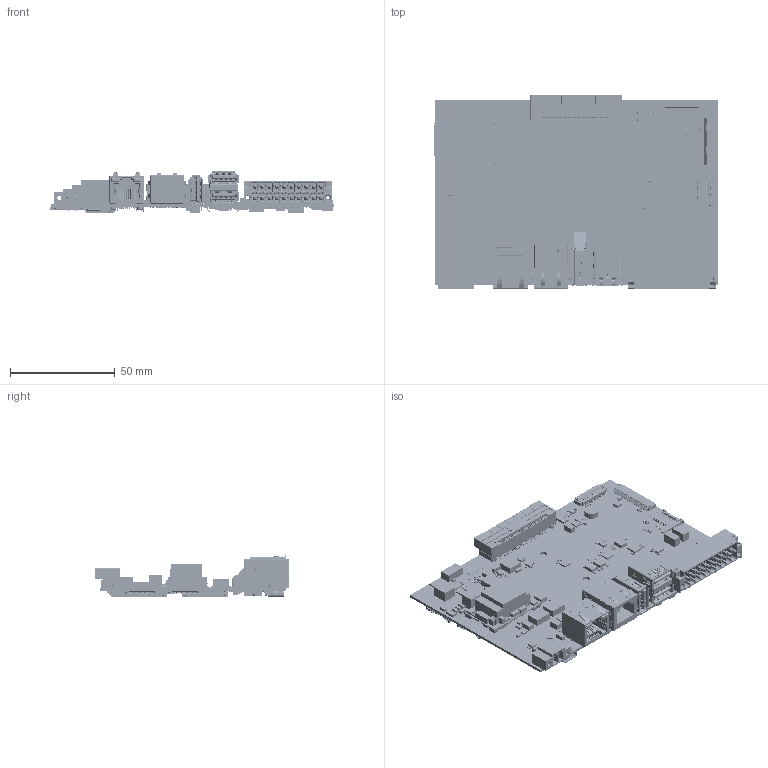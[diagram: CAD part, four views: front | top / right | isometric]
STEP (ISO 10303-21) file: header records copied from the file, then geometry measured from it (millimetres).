
FILE_DESCRIPTION(('STEP AP214'),'1');
FILE_NAME('Humming Board I2 MAIN_BoardAndModels.step','2023-12-10T09:46:16',(' '),(' '),'Spatial InterOp 3D','XD3DPlugin XRACreate',' ');
FILE_SCHEMA(('automotive_design'));
Length unit declared in the file: millimetre
Products named in the file (769): Submodel-G:\My Drive\HummingBoard Industrial\Rev 1.0\Layout\Humming Board I2-PCB\Humming Board I2-PCB\PCB\Layout\3D\Input_S\0402-h-20-Kemet.xtd; 0402-h-20-Kemet; Submodel-CA20090_part_simplified_0402_rnd; DesignRootModel; Submodel-CA20013_part_simplified_0402_rnd; Submodel-CA20001_part_simplified_0402_rnd; Submodel-CA20005_part_simplified_0402_rnd; Submodel-CA20013_part_simplified_0402; Submodel-CA20081_part_simplified_0402_rnd; Submodel-CA20016_part_simplified_0402_rnd; Submodel-G:\My Drive\HummingBoard Industrial\Rev 1.0\Layout\Humming Board I2-PCB\Humming Board I2-PCB\PCB\Layout\3D\Input_S\0603-capcitor.xtd; 0603-capcitor; Submodel-CA30001_part_simplified_0603; Submodel-CA20800_part_simplified_0402_rnd; uid__3113622; Submodel-noModelForPart_CO00507_3499643679; placementOutline; Submodel-CO00507_3499643679_part_HEADER_2x3-100mil_1L2H; Submodel-noModelForPart_IC01183_4288907987_cmpbody; gray; Submodel-noModelForPart_IC01183_4288907987; Submodel-IC01183_4288907987_part_BGA-WLCSP-12pin-0.4pitch; Submodel-G:\My Drive\HummingBoard Industrial\Rev 1.0\Layout\Humming Board I2-PCB\Humming Board I2-PCB\PCB\Layout\3D\ImportedPartModels\CO00511 DF40C-70DS.stp; CO00511 DF40C-70DS.xtd; Submodel-CO00511_part_DF40HC-70DS-0.4V; Submodel-noModelForPart_RE20458_3814611342; Submodel-RE20458_3814611342_part_0402_rnd; Submodel-noModelForPart_RE20013_283380199; Submodel-RE20013_283380199_part_0402_rnd; Submodel-noModelForPart_RE20013_258615652; Submodel-RE20013_258615652_part_0402_rnd; Submodel-noModelForPart_IC01927_1700808411; Submodel-IC01927_1700808411_part_QFN-24-4.15x4.15mm-pitch0.5-Epad_2.7mm_vias; Submodel-noModelForPart_RE20009_3204490568; Submodel-RE20009_3204490568_part_0402_rnd; Submodel-noModelForPart_CA20008_258615652; Submodel-CA20008_258615652_part_0402_rnd; Submodel-noModelForPart_IC01238_846316416; Submodel-IC01238_846316416_part_VQFN-3.1x3.1mmbody-0.5mmPitchEpad1.45mm; Submodel-noModelForPart_DI00237_3742708220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
Assembly tree (1050 placements, depth 6):
  Humming Board I2 MAIN_BoardAndModels
    DesignRootModel
      Submodel-CA20090_part_simplified_0402_rnd  x20
        Submodel-G:\My Drive\HummingBoard Industrial\Rev 1.0\Layout\Humming Board I2-PCB\Humming Board I2-PCB\PCB\Layout\3D\Input_S\0402-h-20-Kemet.xtd
          0402-h-20-Kemet
      Submodel-CA20013_part_simplified_0402_rnd  x52
        Submodel-G:\My Drive\HummingBoard Industrial\Rev 1.0\Layout\Humming Board I2-PCB\Humming Board I2-PCB\PCB\Layout\3D\Input_S\0402-h-20-Kemet.xtd
          0402-h-20-Kemet
      Submodel-CA20001_part_simplified_0402_rnd  x21
        Submodel-G:\My Drive\HummingBoard Industrial\Rev 1.0\Layout\Humming Board I2-PCB\Humming Board I2-PCB\PCB\Layout\3D\Input_S\0402-h-20-Kemet.xtd
          0402-h-20-Kemet
      Submodel-CA20005_part_simplified_0402_rnd  x2
        Submodel-G:\My Drive\HummingBoard Industrial\Rev 1.0\Layout\Humming Board I2-PCB\Humming Board I2-PCB\PCB\Layout\3D\Input_S\0402-h-20-Kemet.xtd
          0402-h-20-Kemet
      Submodel-CA20013_part_simplified_0402  x2
        Submodel-G:\My Drive\HummingBoard Industrial\Rev 1.0\Layout\Humming Board I2-PCB\Humming Board I2-PCB\PCB\Layout\3D\Input_S\0402-h-20-Kemet.xtd
          0402-h-20-Kemet
      Submodel-CA20081_part_simplified_0402_rnd  x3
        Submodel-G:\My Drive\HummingBoard Industrial\Rev 1.0\Layout\Humming Board I2-PCB\Humming Board I2-PCB\PCB\Layout\3D\Input_S\0402-h-20-Kemet.xtd
          0402-h-20-Kemet
      Submodel-CA20016_part_simplified_0402_rnd
        Submodel-G:\My Drive\HummingBoard Industrial\Rev 1.0\Layout\Humming Board I2-PCB\Humming Board I2-PCB\PCB\Layout\3D\Input_S\0402-h-20-Kemet.xtd
          0402-h-20-Kemet
      Submodel-CA30001_part_simplified_0603  x2
        Submodel-G:\My Drive\HummingBoard Industrial\Rev 1.0\Layout\Humming Board I2-PCB\Humming Board I2-PCB\PCB\Layout\3D\Input_S\0603-capcitor.xtd
          0603-capcitor
      Submodel-CA20800_part_simplified_0402_rnd  x2
        Submodel-G:\My Drive\HummingBoard Industrial\Rev 1.0\Layout\Humming Board I2-PCB\Humming Board I2-PCB\PCB\Layout\3D\Input_S\0402-h-20-Kemet.xtd
          0402-h-20-Kemet
      uid__3113622
      Submodel-CO00507_3499643679_part_HEADER_2x3-100mil_1L2H
        Submodel-noModelForPart_CO00507_3499643679
          placementOutline
      Submodel-IC01183_4288907987_part_BGA-WLCSP-12pin-0.4pitch  x2
        Submodel-noModelForPart_IC01183_4288907987
          Submodel-noModelForPart_IC01183_4288907987_cmpbody
            gray
      Submodel-CO00511_part_DF40HC-70DS-0.4V
        Submodel-G:\My Drive\HummingBoard Industrial\Rev 1.0\Layout\Humming Board I2-PCB\Humming Board I2-PCB\PCB\Layout\3D\ImportedPartModels\CO00511 DF40C-70DS.stp
          CO00511 DF40C-70DS.xtd
      Submodel-RE20458_3814611342_part_0402_rnd
        Submodel-noModelForPart_RE20458_3814611342
          placementOutline
      Submodel-RE20013_283380199_part_0402_rnd  x9
        Submodel-noModelForPart_RE20013_283380199
          placementOutline
      Submodel-RE20013_258615652_part_0402_rnd  x5
        Submodel-noModelForPart_RE20013_258615652
          placementOutline
      Submodel-IC01927_1700808411_part_QFN-24-4.15x4.15mm-pitch0.5-Epad_2.7mm_vias  x2
        Submodel-noModelForPart_IC01927_1700808411
          placementOutline
      Submodel-RE20009_3204490568_part_0402_rnd  x3
        Submodel-noModelForPart_RE20009_3204490568
          placementOutline
      Submodel-CA20008_258615652_part_0402_rnd
        Submodel-noModelForPart_CA20008_258615652
          placementOutline
      Submodel-IC01238_846316416_part_VQFN-3.1x3.1mmbody-0.5mmPitchEpad1.45mm
        Submodel-noModelForPart_IC01238_846316416
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Bounding box: 135.35 x 92.98 x 20.28 mm (x, y, z)
Volume: 36838.5 mm3; surface area: 82385.9 mm2
Topology: 1142 solids, 7886 shells, 51262 faces, 154649 edges, 110315 vertices
Faces by surface type: plane 33902, cylinder 12676, sphere 2621, torus 1226, bspline 536, cone 297, revolution 4
Full cylindrical faces by diameter (mm): 0.3 x6, 0.33 x2, 0.8 x4, 1.1 x16, 1.6 x2, 1.8 x2, 2.121 x4, 3.25 x2, 3.3 x2, 3.5 x2, 6.8 x1
Entity records: 1340635 total; most frequent: CARTESIAN_POINT 235753, DIRECTION 165737, ORIENTED_EDGE 151797, EDGE_CURVE 91418, LINE 72009, VECTOR 72009, VERTEX_POINT 70491, AXIS2_PLACEMENT_3D 46862
